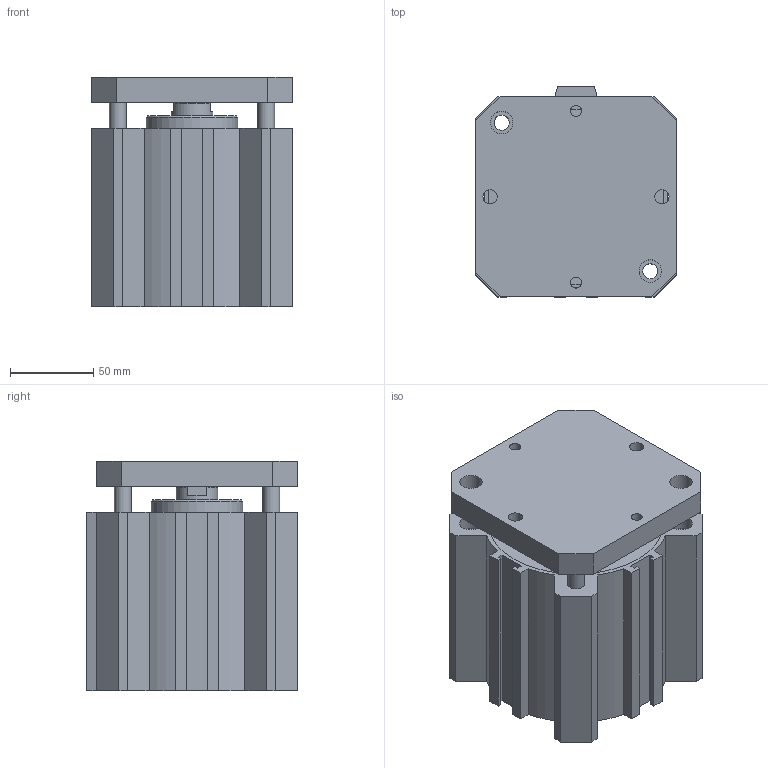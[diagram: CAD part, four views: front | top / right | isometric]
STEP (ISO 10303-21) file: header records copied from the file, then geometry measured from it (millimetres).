
FILE_DESCRIPTION(/* description */ (''),/* implementation_level */ '2;1');
FILE_NAME(/* name */ 'I:\Area Tecnica\Disegni\VARIE-3D\Componenti\1500\Ø100\15##_100_####_#\1501_100_0060_AR.stp',/* time_stamp */ '2016-08-24T15:10:12+02:00',/* author */ ('Maniean1'),/* organization */ (''),/* preprocessor_version */ 'ST-DEVELOPER v15.2',/* originating_system */ 'Autodesk Inventor 2014',/* authorisation */ '');
FILE_SCHEMA (('AUTOMOTIVE_DESIGN { 1 0 10303 214 3 1 1 }'));
Length unit declared in the file: millimetre
Products named in the file (3): C_1501_100_0060_AR; S_1501_100_0060_AR; 1501_100_0060_AR
Bounding box: 120 x 126 x 137.5 mm (x, y, z)
Volume: 1023418 mm3; surface area: 219414.8 mm2
Topology: 2 solids, 2 shells, 139 faces, 342 edges, 229 vertices
Faces by surface type: plane 94, cylinder 40, cone 5
Full cylindrical faces by diameter (mm): 6.647 x2, 8.5 x2, 9 x4, 10 x4, 13.5 x10, 14.95 x2, 25 x2, 55 x2, 100 x2, 105 x2
Entity records: 3978 total; most frequent: CARTESIAN_POINT 674, DIRECTION 672, ORIENTED_EDGE 600, EDGE_CURVE 300, AXIS2_PLACEMENT_3D 232, VERTEX_POINT 222, EDGE_LOOP 216, LINE 208
